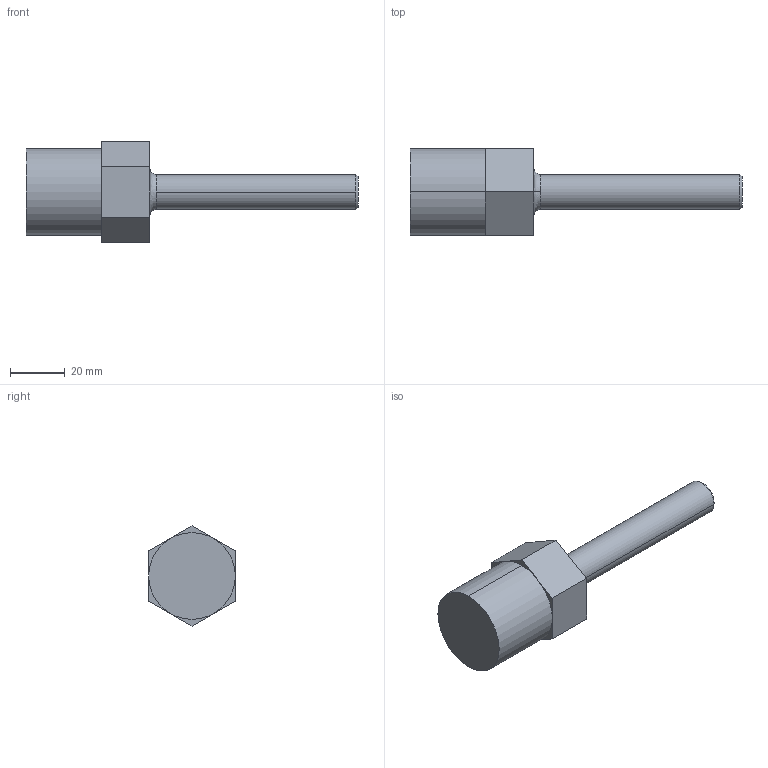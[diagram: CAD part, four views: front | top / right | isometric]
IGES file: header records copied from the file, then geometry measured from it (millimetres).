
Start section: SolidWorks IGES file using analytic representation for surfaces
Global section: file name: S:\Product Visuals\FILES FOR PUBLICATION\SOLID MODELS FOR PUBLICATION\60\front-mount-liquid-fitting\tubeout\Fitting Tubeout 08.IGS; native system: SolidWorks 2012; preprocessor: SolidWorks 2012; author: rachel.dressel; date: 121112.105716; units: inch
Bounding box: 121.72 x 31.75 x 36.66 mm (x, y, z)
Volume: 47076.2 mm3; surface area: 9442.3 mm2
Topology: 1 solids, 1 shells, 18 faces, 40 edges, 26 vertices
Faces by surface type: plane 10, revolution 6, bspline 2
